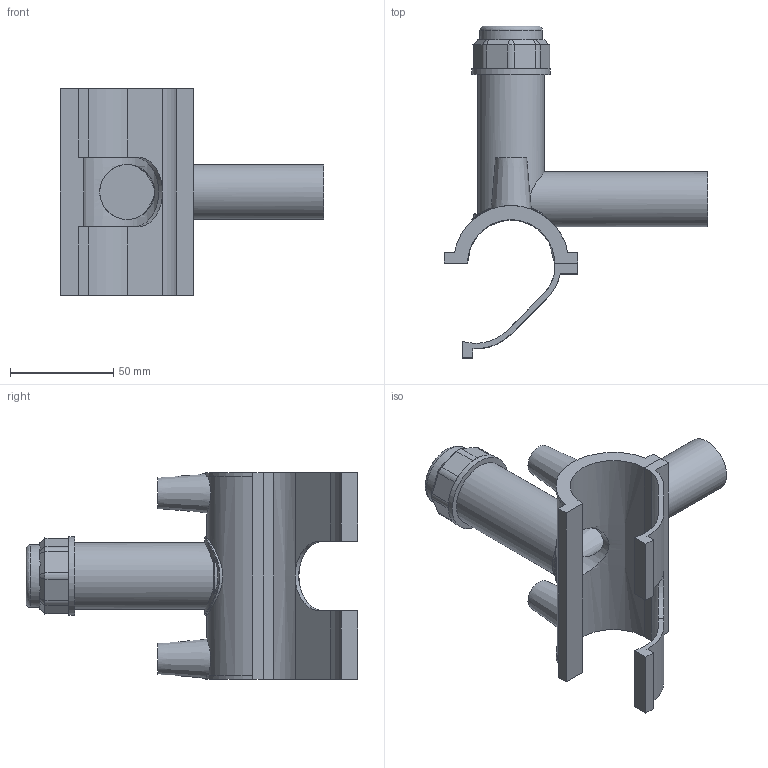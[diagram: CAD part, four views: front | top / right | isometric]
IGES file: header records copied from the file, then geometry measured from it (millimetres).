
Global section: file name: 5963BB03013007.ipt; native system: Autodesk Inventor 2019; preprocessor: unknown; author: KIM; date: 20210830.101333; units: millimetre
Bounding box: 127.25 x 160.41 x 100.08 mm (x, y, z)
Volume: 132896.2 mm3; surface area: 64430.9 mm2
Topology: 2 solids, 2 shells, 111 faces, 286 edges, 187 vertices
Faces by surface type: plane 66, cylinder 23, cone 11, revolution 10, bspline 1
Full cylindrical faces by diameter (mm): 4 x2, 26.6 x1, 30.312 x1, 32.206 x1, 37.89 x1
